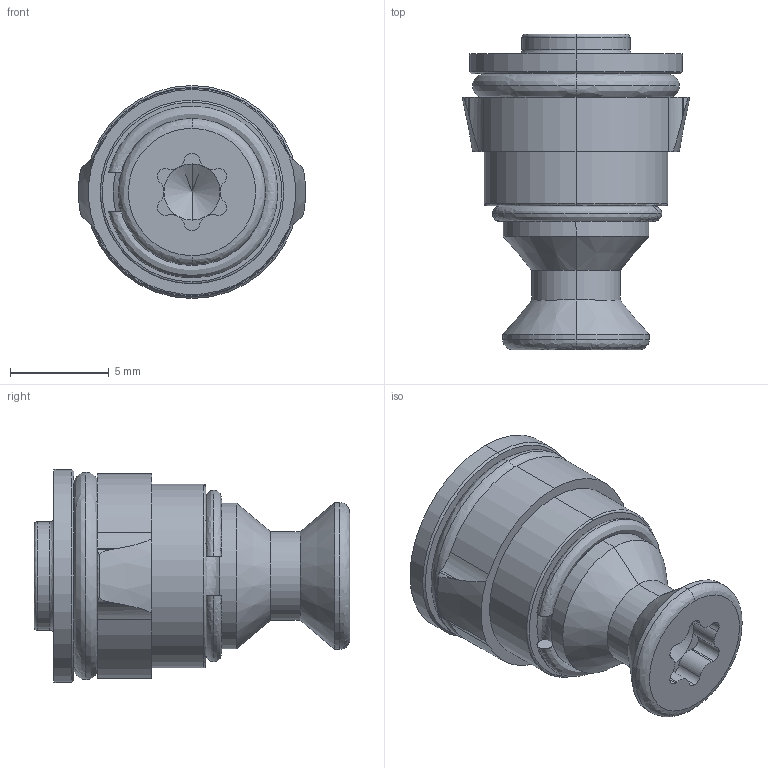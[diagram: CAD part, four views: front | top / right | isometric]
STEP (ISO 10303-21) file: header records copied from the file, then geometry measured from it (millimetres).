
FILE_DESCRIPTION (( 'STEP AP203' ), '1' );
FILE_NAME ('QS022-IAS-M5.STEP', '2017-06-07T08:59:17', ( '' ), ( '' ), 'SwSTEP 2.0', 'SolidWorks 2017', '' );
FILE_SCHEMA (( 'CONFIG_CONTROL_DESIGN' ));
Length unit declared in the file: millimetre
Products named in the file (1): QS022-IAS-M5
Bounding box: 11.51 x 16 x 10.8 mm (x, y, z)
Volume: 695.6 mm3; surface area: 1281.9 mm2
Topology: 6 solids, 6 shells, 165 faces, 441 edges, 256 vertices
Faces by surface type: cylinder 71, cone 49, bspline 26, plane 19
Entity records: 5597 total; most frequent: CARTESIAN_POINT 1748, ORIENTED_EDGE 808, DIRECTION 792, EDGE_CURVE 404, AXIS2_PLACEMENT_3D 340, VERTEX_POINT 256, CIRCLE 200, EDGE_LOOP 174
